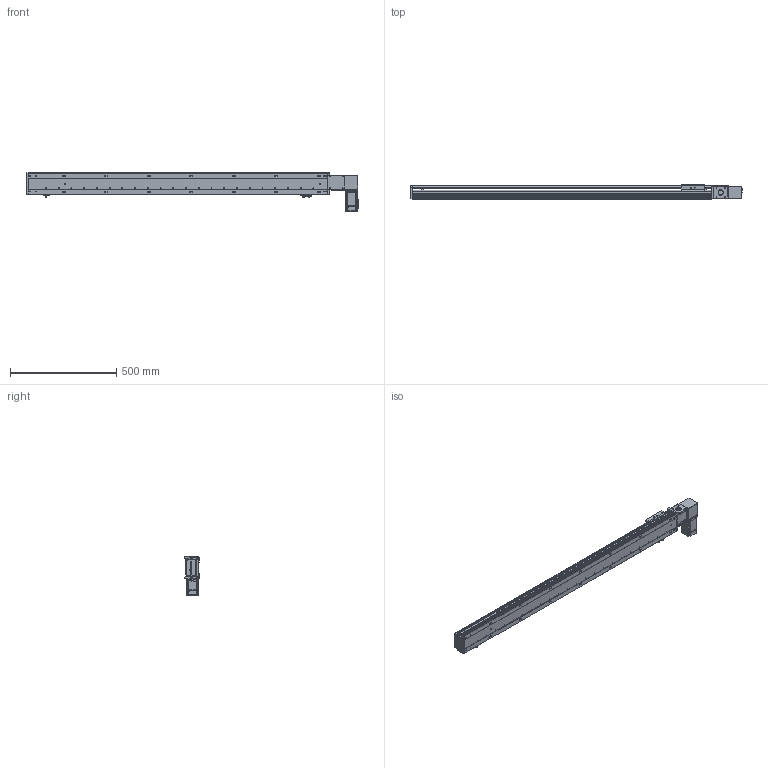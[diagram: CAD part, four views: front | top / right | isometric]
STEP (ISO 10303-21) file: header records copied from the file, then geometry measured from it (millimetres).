
FILE_DESCRIPTION (( 'STEP AP203' ), '1' );
FILE_NAME ('RY100-T-300-LK.SLDASM_1200.step', '2024-04-25T05:37:47', ( '盈信电脑' ), ( '东莞市道滘镇水果街19号' ), 'SwSTEP 2.0', 'SolidWorks 2016', '' );
FILE_SCHEMA (( 'CONFIG_CONTROL_DESIGN' ));
Length unit declared in the file: millimetre
Products named in the file (13): RY100俋离覜茼え; 1; RY100-T-300-RK倰第菁釱_1200; RY100-T-300-LK.SLDASM_1200; 覜茼ん672; RY100綴裔啣; RY100-T肮祭謫翋盓傅釱; RY80-T肮祭謫俋欶; RY100-T翋肮祭謫裔啣2; RY100-T-300-RK倰第奻裔_1200; RY100-T肮祭謫臏賑輸; RY100-T左右折电机安装板; 滅袉蝶18-10
Assembly tree (16 placements, depth 2):
  RY100-T-300-LK.SLDASM_1200
    RY100-T-300-RK倰第菁釱_1200
    RY100-T-300-RK倰第奻裔_1200
    RY100-T肮祭謫臏賑輸
    RY100綴裔啣
    覜茼ん672  x3
    RY100俋离覜茼え
    RY100-T肮祭謫翋盓傅釱
    滅袉蝶18-10  x2
    RY100-T翋肮祭謫裔啣2  x2
    RY80-T肮祭謫俋欶
    RY100-T左右折电机安装板
    1
Bounding box: 1564 x 66 x 182.5 mm (x, y, z)
Volume: 2933449 mm3; surface area: 1213374 mm2
Topology: 16 solids, 16 shells, 2156 faces, 6015 edges, 3909 vertices
Faces by surface type: plane 1174, cylinder 773, cone 131, bspline 78
Entity records: 68777 total; most frequent: CARTESIAN_POINT 16705, ORIENTED_EDGE 10766, DIRECTION 10215, EDGE_CURVE 5383, VERTEX_POINT 3545, VECTOR 3491, LINE 3491, AXIS2_PLACEMENT_3D 3362
